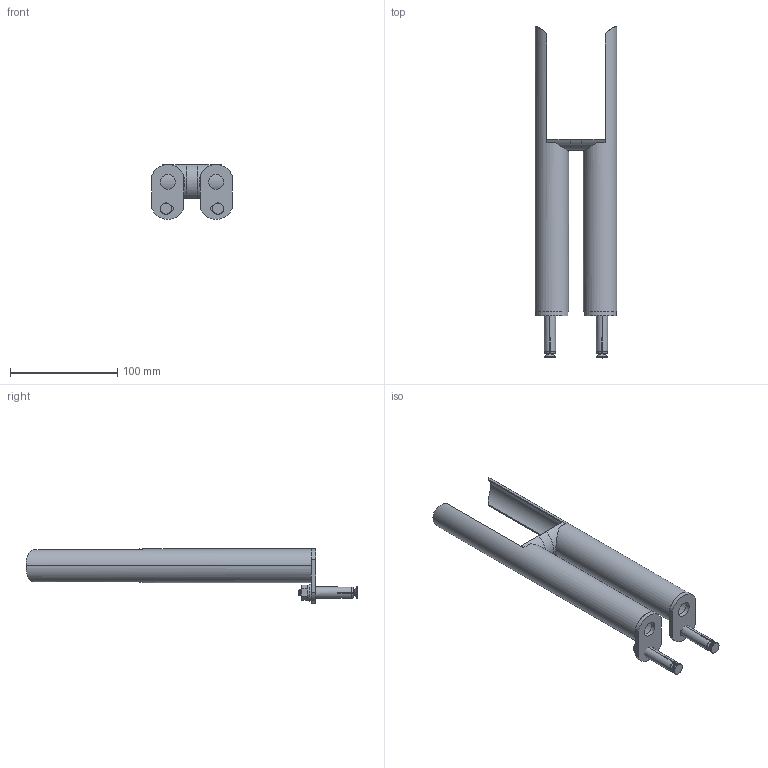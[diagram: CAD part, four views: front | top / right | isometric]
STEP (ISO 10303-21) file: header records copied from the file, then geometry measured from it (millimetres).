
FILE_DESCRIPTION(/* description */ (''),/* implementation_level */ '2;1');
FILE_NAME(/* name */ 'CL02-ZJ',/* time_stamp */ '2023-09-10T13:31:29+08:00',/* author */ (''),/* organization */ (''),/* preprocessor_version */ 'ST-DEVELOPER v9',/* originating_system */ 'UGS - NX 4.0',/* authorisation */ '');
FILE_SCHEMA (('CONFIG_CONTROL_DESIGN'));
Length unit declared in the file: millimetre
Products named in the file (1): Admi177Fr7yy
Bounding box: 76.4 x 309.45 x 51 mm (x, y, z)
Volume: 64622.8 mm3; surface area: 98369.1 mm2
Topology: 10 solids, 10 shells, 346 faces, 898 edges, 572 vertices
Faces by surface type: cylinder 150, plane 96, bspline 80, cone 20
Entity records: 24346 total; most frequent: CARTESIAN_POINT 16771, ORIENTED_EDGE 1796, DIRECTION 1300, EDGE_CURVE 898, VERTEX_POINT 572, AXIS2_PLACEMENT_3D 481, EDGE_LOOP 370, ADVANCED_FACE 346
